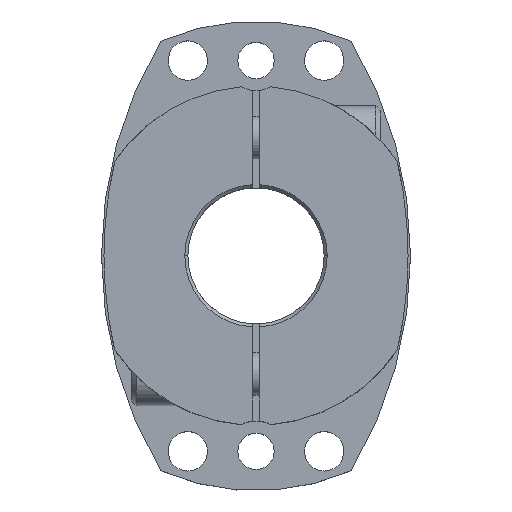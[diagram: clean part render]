
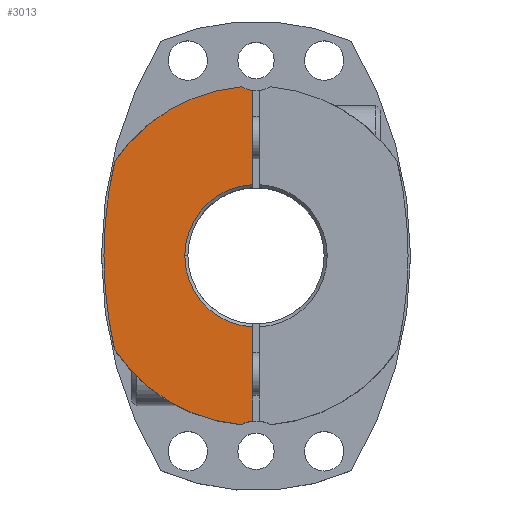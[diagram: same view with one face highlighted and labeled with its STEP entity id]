
A CAD part, top view. The second image highlights one B-rep face of the part: STEP entity #3013.
In plain terms, the highlighted planar face has unit normal (0, 0, 1).
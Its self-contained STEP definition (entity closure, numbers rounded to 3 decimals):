
#414=CARTESIAN_POINT('',(-23.5,0.,42.5));
#415=VERTEX_POINT('',#414);
#422=CARTESIAN_POINT('',(-1.,-23.479,42.5));
#423=VERTEX_POINT('',#422);
#424=CARTESIAN_POINT('',(0.,0.,42.5));
#425=DIRECTION('',(0.0,0.0,1.0));
#426=DIRECTION('',(1.0,0.0,0.0));
#427=AXIS2_PLACEMENT_3D('',#424,#425,#426);
#428=CIRCLE('',#427,23.5);
#429=EDGE_CURVE('',#415,#423,#428,.T.);
#912=CARTESIAN_POINT('',(-50.2,0.,42.5));
#913=VERTEX_POINT('',#912);
#922=CARTESIAN_POINT('',(-46.66,30.965,42.5));
#923=VERTEX_POINT('',#922);
#924=CARTESIAN_POINT('',(87.,0.,42.5));
#925=DIRECTION('',(0.0,0.0,-1.0));
#926=DIRECTION('',(1.0,0.0,0.0));
#927=AXIS2_PLACEMENT_3D('',#924,#925,#926);
#928=CIRCLE('',#927,137.2);
#929=EDGE_CURVE('',#913,#923,#928,.T.);
#2026=CARTESIAN_POINT('',(-46.66,-30.965,42.5));
#2027=VERTEX_POINT('',#2026);
#2034=CARTESIAN_POINT('',(87.,0.,42.5));
#2035=DIRECTION('',(0.0,0.0,-1.0));
#2036=DIRECTION('',(1.0,0.0,0.0));
#2037=AXIS2_PLACEMENT_3D('',#2034,#2035,#2036);
#2038=CIRCLE('',#2037,137.2);
#2039=EDGE_CURVE('',#2027,#913,#2038,.T.);
#2637=CARTESIAN_POINT('',(-1.,54.55,42.5));
#2638=VERTEX_POINT('',#2637);
#2645=CARTESIAN_POINT('',(-1.,23.479,42.5));
#2646=VERTEX_POINT('',#2645);
#2647=CARTESIAN_POINT('',(-1.,23.479,42.5));
#2648=DIRECTION('',(0.0,1.0,0.0));
#2649=VECTOR('',#2648,31.071);
#2650=LINE('',#2647,#2649);
#2651=EDGE_CURVE('',#2646,#2638,#2650,.T.);
#2739=CARTESIAN_POINT('',(-1.,-54.55,42.5));
#2740=VERTEX_POINT('',#2739);
#2741=CARTESIAN_POINT('',(-1.,-54.55,42.5));
#2742=DIRECTION('',(0.0,1.0,0.0));
#2743=VECTOR('',#2742,31.071);
#2744=LINE('',#2741,#2743);
#2745=EDGE_CURVE('',#2740,#423,#2744,.T.);
#2826=CARTESIAN_POINT('',(-4.904,-55.785,42.5));
#2827=VERTEX_POINT('',#2826);
#2828=CARTESIAN_POINT('',(0.,-64.5,42.5));
#2829=DIRECTION('',(0.0,0.0,-1.0));
#2830=DIRECTION('',(1.0,0.0,0.0));
#2831=AXIS2_PLACEMENT_3D('',#2828,#2829,#2830);
#2832=CIRCLE('',#2831,10.0);
#2833=EDGE_CURVE('',#2827,#2740,#2832,.T.);
#2970=CARTESIAN_POINT('',(0.,0.,42.5));
#2971=DIRECTION('',(0.0,0.0,1.0));
#2972=DIRECTION('',(1.0,0.0,0.0));
#2973=AXIS2_PLACEMENT_3D('',#2970,#2971,#2972);
#2974=PLANE('',#2973);
#2975=ORIENTED_EDGE('',*,*,#2745,.T.);
#2976=ORIENTED_EDGE('',*,*,#429,.F.);
#2977=CARTESIAN_POINT('',(0.,0.,42.5));
#2978=DIRECTION('',(0.0,0.0,1.0));
#2979=DIRECTION('',(1.0,0.0,0.0));
#2980=AXIS2_PLACEMENT_3D('',#2977,#2978,#2979);
#2981=CIRCLE('',#2980,23.5);
#2982=EDGE_CURVE('',#2646,#415,#2981,.T.);
#2983=ORIENTED_EDGE('',*,*,#2982,.F.);
#2984=ORIENTED_EDGE('',*,*,#2651,.T.);
#2985=CARTESIAN_POINT('',(-4.904,55.785,42.5));
#2986=VERTEX_POINT('',#2985);
#2987=CARTESIAN_POINT('',(0.,64.5,42.5));
#2988=DIRECTION('',(0.0,0.0,-1.0));
#2989=DIRECTION('',(1.0,0.0,0.0));
#2990=AXIS2_PLACEMENT_3D('',#2987,#2988,#2989);
#2991=CIRCLE('',#2990,10.0);
#2992=EDGE_CURVE('',#2638,#2986,#2991,.T.);
#2993=ORIENTED_EDGE('',*,*,#2992,.T.);
#2994=CARTESIAN_POINT('',(0.,0.,42.5));
#2995=DIRECTION('',(0.0,0.0,-1.0));
#2996=DIRECTION('',(1.0,0.0,0.0));
#2997=AXIS2_PLACEMENT_3D('',#2994,#2995,#2996);
#2998=CIRCLE('',#2997,56.);
#2999=EDGE_CURVE('',#923,#2986,#2998,.T.);
#3000=ORIENTED_EDGE('',*,*,#2999,.F.);
#3001=ORIENTED_EDGE('',*,*,#929,.F.);
#3002=ORIENTED_EDGE('',*,*,#2039,.F.);
#3003=CARTESIAN_POINT('',(0.,0.0,42.5));
#3004=DIRECTION('',(0.0,0.0,-1.0));
#3005=DIRECTION('',(1.0,0.0,0.0));
#3006=AXIS2_PLACEMENT_3D('',#3003,#3004,#3005);
#3007=CIRCLE('',#3006,56.);
#3008=EDGE_CURVE('',#2827,#2027,#3007,.T.);
#3009=ORIENTED_EDGE('',*,*,#3008,.F.);
#3010=ORIENTED_EDGE('',*,*,#2833,.T.);
#3011=EDGE_LOOP('',(#2975,#2976,#2983,#2984,#2993,#3000,#3001,#3002,#3009,#3010));
#3012=FACE_OUTER_BOUND('',#3011,.T.);
#3013=ADVANCED_FACE('',(#3012),#2974,.T.);
